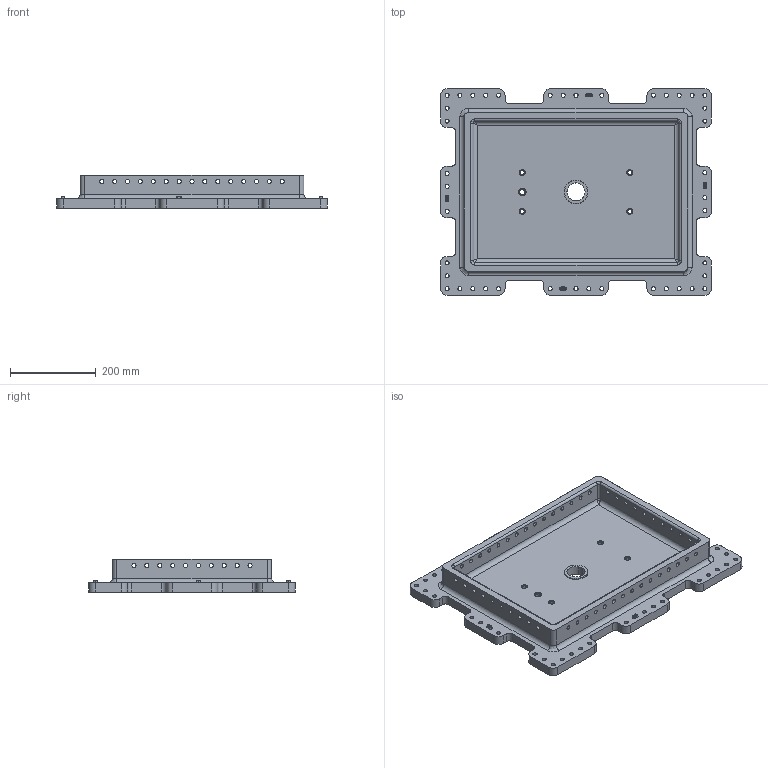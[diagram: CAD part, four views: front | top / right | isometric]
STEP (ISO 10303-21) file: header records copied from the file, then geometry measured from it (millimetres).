
FILE_DESCRIPTION(('STEP AP214'),'1');
FILE_NAME('EGT014_1705071_H_RAHMEN_450X600_SW80.CATPart.stp','2015-09-14T13:04:18',('3D-Tool'),(' '),'Spatial InterOp 3D',' ',' ');
FILE_SCHEMA(('automotive_design'));
Length unit declared in the file: millimetre
Products named in the file (11): EGT014_1705071_H_RAHMEN_450X600_SW80|B80111057108500000000_001_EGT014_H-GRUNDRAHMEN_450X600_SW80|Solid.1 (  with JELE 19274 : from *SOL153893 - wsp EGT017 -  ) ( Brep from *SOL153893 ); EGT014_1705071_H_RAHMEN_450X600_SW80|Bohrbuchse_DIN172_A42x25|EdgeFillet.1; EGT014_1705071_H_RAHMEN_450X600_SW80|Bohrbuchse_DIN179_A12x20|EdgeFillet.2; 1; 2; 3; 4; 5; 6; 7; 8
Bounding box: 630 x 480 x 79 mm (x, y, z)
Volume: 7913710.8 mm3; surface area: 861905.5 mm2
Topology: 11 solids, 11 shells, 635 faces, 1618 edges, 1052 vertices
Faces by surface type: cylinder 426, plane 145, cone 40, bspline 16, torus 8
Entity records: 25976 total; most frequent: CARTESIAN_POINT 4095, DIRECTION 3742, ORIENTED_EDGE 3228, EDGE_CURVE 1614, AXIS2_PLACEMENT_3D 1542, VERTEX_POINT 1052, CIRCLE 912, EDGE_LOOP 910
